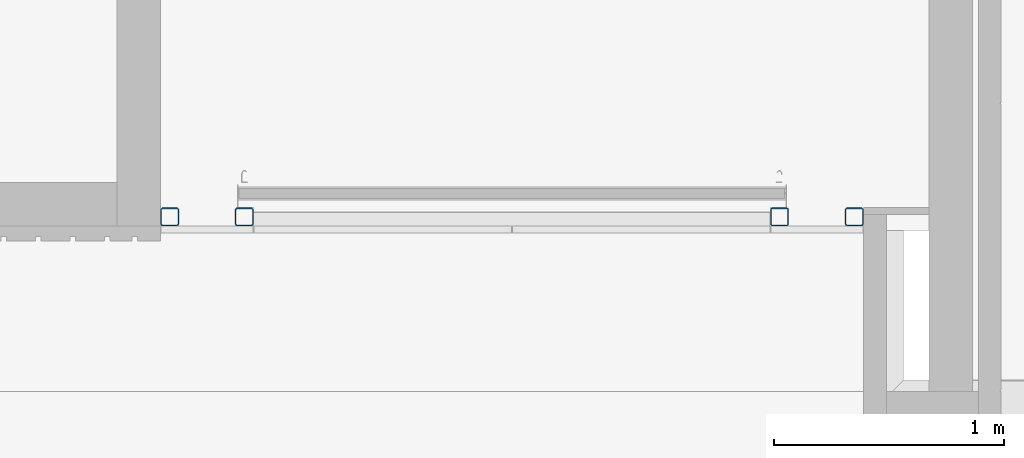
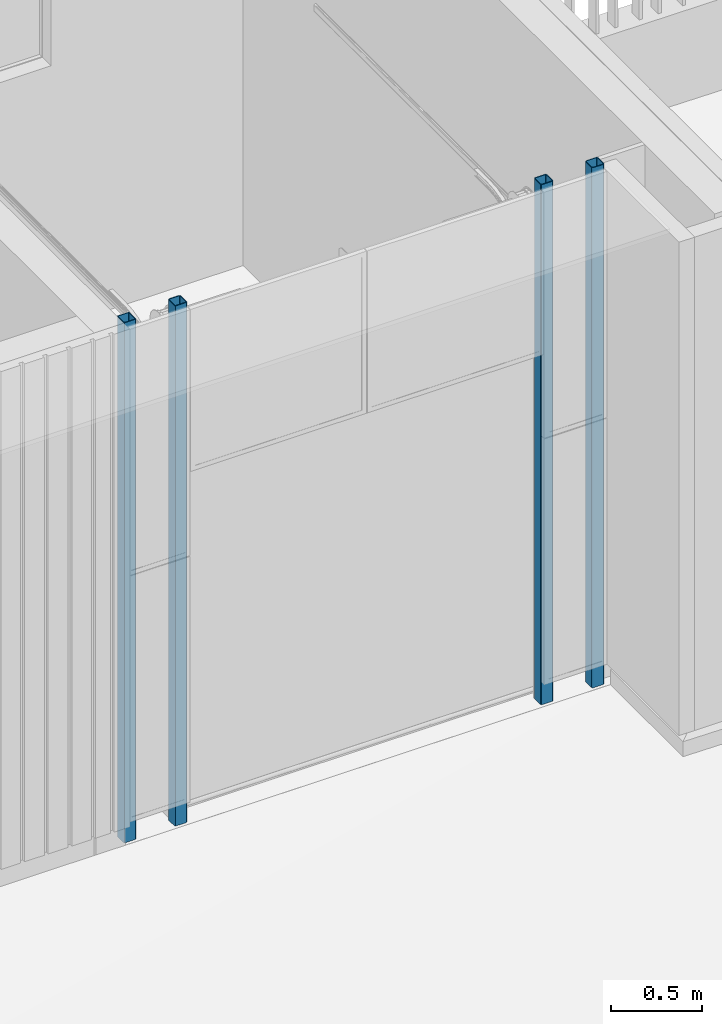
# One storey, part 4 of 77: 4 columns.
"""IFC2X3 building model written with IfcOpenShell, lengths in millimetres."""

from ifc_helpers import new_model, entity, si_unit, converted_unit, derived_unit, direction, frame, frame_2d, origin, place, context, subcontext, project, spatial, polyline, circle_curve, parameter, trimmed, segment, composite_curve, outline, extrude, source, transform, mapped, material, type_object, type_shapes, element, save


model = new_model("IFC2X3")

# Units and contexts
model_context = context("Model", 3, precision=0.01, world=origin(), true_north=direction((6.12303176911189e-17, 1.0)))
body_context = subcontext(model_context, "Body", "Model", "MODEL_VIEW")
ifc_project = project(units=[si_unit("LENGTHUNIT", "METRE", prefix="MILLI"), si_unit("AREAUNIT", "SQUARE_METRE"), si_unit("VOLUMEUNIT", "CUBIC_METRE"), converted_unit("PLANEANGLEUNIT", "DEGREE", entity("IfcRatioMeasure", 0.0174532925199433), si_unit("PLANEANGLEUNIT", "RADIAN"), dimensions=[0, 0, 0, 0, 0, 0, 0]), si_unit("MASSUNIT", "GRAM", prefix="KILO"), derived_unit("MASSDENSITYUNIT", [(si_unit("MASSUNIT", "GRAM", prefix="KILO"), 1), (si_unit("LENGTHUNIT", "METRE"), -3)]), si_unit("TIMEUNIT", "SECOND"), si_unit("FREQUENCYUNIT", "HERTZ"), si_unit("THERMODYNAMICTEMPERATUREUNIT", "DEGREE_CELSIUS"), derived_unit("THERMALTRANSMITTANCEUNIT", [(si_unit("MASSUNIT", "GRAM", prefix="KILO"), 1), (si_unit("THERMODYNAMICTEMPERATUREUNIT", "KELVIN"), -1), (si_unit("TIMEUNIT", "SECOND"), -3)]), derived_unit("VOLUMETRICFLOWRATEUNIT", [(si_unit("LENGTHUNIT", "METRE"), 3), (si_unit("TIMEUNIT", "SECOND"), -1)]), si_unit("ELECTRICCURRENTUNIT", "AMPERE"), si_unit("ELECTRICVOLTAGEUNIT", "VOLT"), si_unit("POWERUNIT", "WATT"), si_unit("FORCEUNIT", "NEWTON", prefix="KILO"), si_unit("ILLUMINANCEUNIT", "LUX"), si_unit("LUMINOUSFLUXUNIT", "LUMEN"), si_unit("LUMINOUSINTENSITYUNIT", "CANDELA"), derived_unit("USERDEFINED", [(si_unit("MASSUNIT", "GRAM", prefix="KILO"), -1), (si_unit("LENGTHUNIT", "METRE"), -2), (si_unit("TIMEUNIT", "SECOND"), 3), (si_unit("LUMINOUSFLUXUNIT", "LUMEN"), 1)]), derived_unit("LINEARVELOCITYUNIT", [(si_unit("LENGTHUNIT", "METRE"), 1), (si_unit("TIMEUNIT", "SECOND"), -1)]), si_unit("PRESSUREUNIT", "PASCAL"), derived_unit("USERDEFINED", [(si_unit("LENGTHUNIT", "METRE"), -2), (si_unit("MASSUNIT", "GRAM", prefix="KILO"), 1), (si_unit("TIMEUNIT", "SECOND"), -2)])], contexts=[model_context])

# Site, building, storey
site_placement = place(None, origin())
site = spatial("IfcSite", under=ifc_project, at=site_placement, Name="Default", CompositionType="ELEMENT")
building_placement = place(site_placement, origin())
building = spatial("IfcBuilding", under=site, at=building_placement, CompositionType="ELEMENT")
storey_placement = place(building_placement, origin())
storey = spatial("IfcBuildingStorey", under=building, at=storey_placement, Name="1. KORRUS", CompositionType="ELEMENT", Elevation=0.0)

# Columns
ifc_material = material(Name="must (RAL9005)")
column_type = type_object("IfcColumnType", Name="80x80", PredefinedType="COLUMN")
shared_shape = source(origin(), body_context, "Body", "SweptSolid", [
    extrude(outline(composite_curve([segment(polyline([(-30.0, -40.0), (30.0, -40.0)]), True, "CONTINUOUS"), segment(trimmed(circle_curve(frame_2d((30.0, -30.0), x_axis=(-1.0, 0.0)), 9.99999999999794), [parameter(90.0000000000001)], [parameter(180.0)], True, "PARAMETER"), True, "CONTINUOUS"), segment(polyline([(40.0, -30.0), (40.0, 30.0)]), True, "CONTINUOUS"), segment(trimmed(circle_curve(frame_2d((30.0, 30.0), x_axis=(-1.0, 0.0)), 9.99999999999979), [parameter(180.0)], [parameter(270.0)], True, "PARAMETER"), True, "CONTINUOUS"), segment(polyline([(30.0, 40.0), (-30.0, 40.0)]), True, "CONTINUOUS"), segment(trimmed(circle_curve(frame_2d((-30.0, 30.0), x_axis=(-1.0, 0.0)), 10.0000000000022), [parameter(270.0)], [parameter(360.0)], True, "PARAMETER"), True, "CONTINUOUS"), segment(polyline([(-40.0, 30.0), (-40.0, -30.0)]), True, "CONTINUOUS"), segment(trimmed(circle_curve(frame_2d((-30.0, -30.0), x_axis=(-1.0, 0.0)), 9.99999999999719), [parameter(360.0)], [parameter(89.9999999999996)], True, "PARAMETER"), True, "CONTINUOUS")], self_intersect=False), holes=[composite_curve([segment(trimmed(circle_curve(frame_2d((-30.0, -30.0), x_axis=(-1.0, 0.0)), 4.99999999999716), [parameter(0.0)], [parameter(90.0000000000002)], True, "PARAMETER"), False, "CONTINUOUS"), segment(polyline([(-35.0, -30.0), (-35.0, 30.0)]), True, "CONTINUOUS"), segment(trimmed(circle_curve(frame_2d((-30.0, 30.0), x_axis=(-1.0, 0.0)), 4.99999999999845), [parameter(270.0)], [parameter(360.0)], True, "PARAMETER"), False, "CONTINUOUS"), segment(polyline([(-30.0, 35.0), (30.0, 35.0)]), True, "CONTINUOUS"), segment(trimmed(circle_curve(frame_2d((30.0, 30.0), x_axis=(-1.0, 0.0)), 5.00000000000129), [parameter(180.0)], [parameter(270.0)], True, "PARAMETER"), False, "CONTINUOUS"), segment(polyline([(35.0, 30.0), (35.0, -30.0)]), True, "CONTINUOUS"), segment(trimmed(circle_curve(frame_2d((30.0, -30.0), x_axis=(-1.0, 0.0)), 5.00000000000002), [parameter(90.0000000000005)], [parameter(180.0)], True, "PARAMETER"), False, "CONTINUOUS"), segment(polyline([(30.0, -35.0), (-30.0, -35.0)]), True, "CONTINUOUS")], self_intersect=False)]), frame((0.0, 0.0, -100.0), z_axis=(0.0, 0.0, 1.0), x_axis=(-1.0, 0.0, 0.0)), (0.0, 0.0, 1.0), 3500.0),
])
type_shapes(column_type, [shared_shape])
for number, where, name in (
    (1, (6104.19141365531, 36160.0, 0.0), "teraspost:80x80"),
    (2, (5779.76481329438, 36160.0, 0.0), "teraspost:80x80"),
    (3, (8434.1914136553, 36160.0, 0.0), "teraspost:80x80"),
    (4, (8759.76481329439, 36160.0, 0.0), "teraspost:80x80"),
):
    element("IfcColumn", number, at=place(storey_placement, frame(where)), inside=storey, type_object=column_type, material=ifc_material, Name=name, ObjectType="80x80", context=body_context, shape_type="MappedRepresentation", body=[
        mapped(shared_shape, transform((0.0, 0.0, 0.0), scale=1.0)),
    ])

save(model, "model.ifc")
